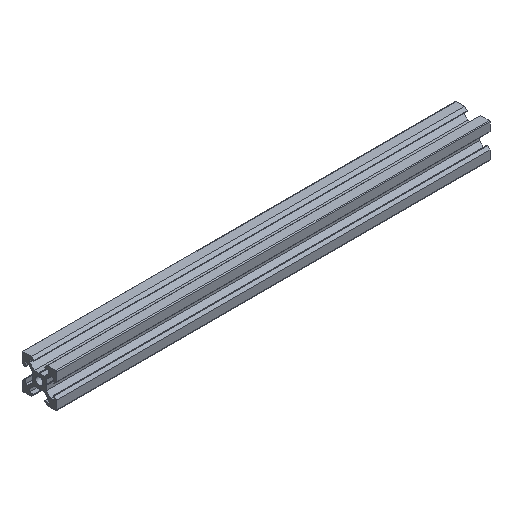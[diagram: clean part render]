
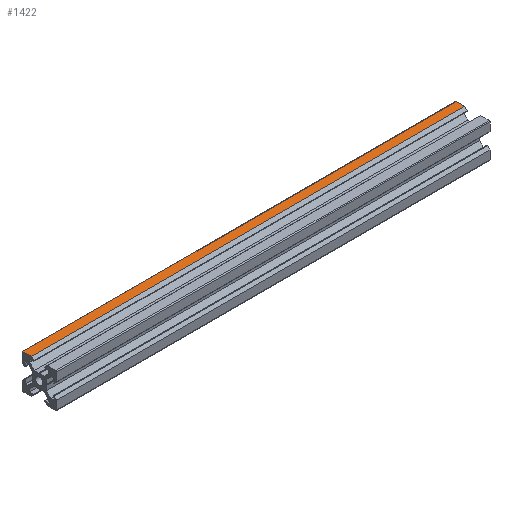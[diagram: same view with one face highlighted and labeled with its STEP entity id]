
A CAD part, isometric view. The second image highlights one B-rep face of the part: STEP entity #1422.
In plain terms, the highlighted planar face has unit normal (0, 0, 1).
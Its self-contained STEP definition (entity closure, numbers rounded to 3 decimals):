
#59=FACE_OUTER_BOUND('',#130,.T.);
#130=EDGE_LOOP('',(#1023,#1024,#1025,#1026));
#253=LINE('',#2086,#450);
#254=LINE('',#2090,#451);
#255=LINE('',#2092,#452);
#256=LINE('',#2093,#453);
#450=VECTOR('',#1700,500.);
#451=VECTOR('',#1705,10.);
#452=VECTOR('',#1706,500.);
#453=VECTOR('',#1707,10.);
#624=VERTEX_POINT('',#2083);
#625=VERTEX_POINT('',#2085);
#626=VERTEX_POINT('',#2089);
#627=VERTEX_POINT('',#2091);
#788=EDGE_CURVE('',#625,#624,#253,.T.);
#790=EDGE_CURVE('',#626,#624,#254,.F.);
#791=EDGE_CURVE('',#627,#626,#255,.T.);
#792=EDGE_CURVE('',#627,#625,#256,.F.);
#1023=ORIENTED_EDGE('',*,*,#790,.F.);
#1024=ORIENTED_EDGE('',*,*,#791,.F.);
#1025=ORIENTED_EDGE('',*,*,#792,.T.);
#1026=ORIENTED_EDGE('',*,*,#788,.T.);
#1354=PLANE('',#1511);
#1422=ADVANCED_FACE('',(#59),#1354,.T.);
#1511=AXIS2_PLACEMENT_3D('',#2088,#1703,#1704);
#1700=DIRECTION('',(-1.,0.,0.));
#1703=DIRECTION('center_axis',(0.,0.,1.));
#1704=DIRECTION('ref_axis',(1.,0.,0.));
#1705=DIRECTION('',(0.,-1.,0.));
#1706=DIRECTION('',(-1.,0.,0.));
#1707=DIRECTION('',(0.,-1.,0.));
#2083=CARTESIAN_POINT('',(-125.,9.5,10.));
#2085=CARTESIAN_POINT('',(125.,9.5,10.));
#2086=CARTESIAN_POINT('',(250.,9.5,10.));
#2088=CARTESIAN_POINT('Origin',(250.,0.,10.));
#2089=CARTESIAN_POINT('',(-125.,4.58,10.));
#2090=CARTESIAN_POINT('',(-125.,0.,10.));
#2091=CARTESIAN_POINT('',(125.,4.58,10.));
#2092=CARTESIAN_POINT('',(250.,4.58,10.));
#2093=CARTESIAN_POINT('',(125.,0.,10.));
